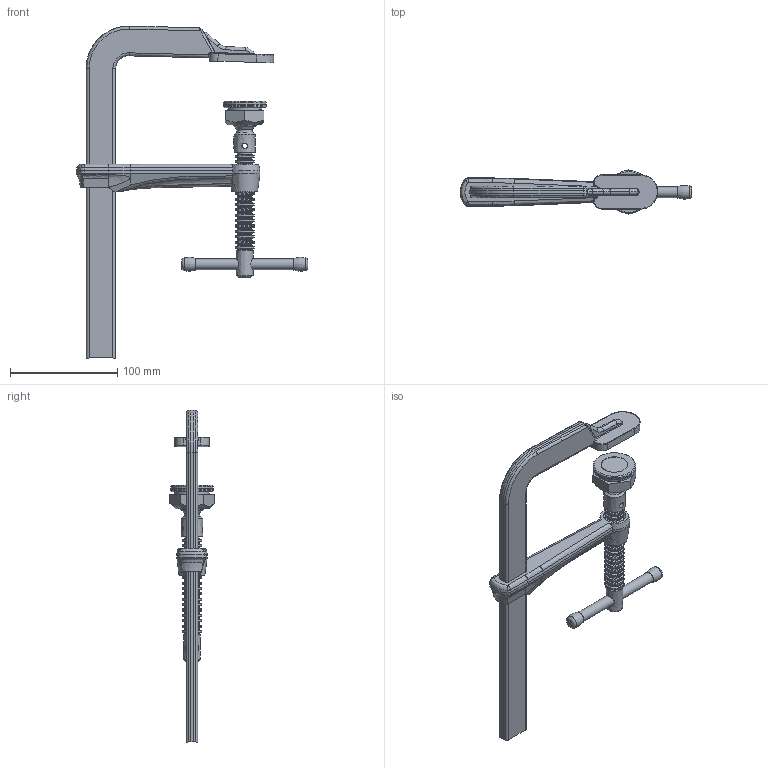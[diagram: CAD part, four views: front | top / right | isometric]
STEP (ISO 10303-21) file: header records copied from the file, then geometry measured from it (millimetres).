
FILE_DESCRIPTION( ('This file contains a STEP AP42 implementation' ,'as created by ZW3D STEP Interface translator.') ,'2;1' );
FILE_NAME( 'SL20_kpl_28x11.stp' ,'20 630. 95610', (''), ('ZWCAD Software Co.'), 'Version 1.0', 'ZW3D to STEP translator', '' );
FILE_SCHEMA(('AUTOMOTIVE_DESIGN'));
Length unit declared in the file: millimetre
Products named in the file (10): 0; GSL20_kpl_28x11; GSL20_Festbügel_28x11; Gleitb_kpl_SL-M; Gleitbuegel_28x11_120mod; Spindel_kpl_SGL-M; Spindel_SGL-M; Druckplatte_kpl_HLZ_2.-Line; 3007071_Bolzen_HLZ; 3008298b
Assembly tree (8 placements, depth 4):
  0
  GSL20_kpl_28x11
    GSL20_Festbügel_28x11
    Gleitb_kpl_SL-M
      Gleitbuegel_28x11_120mod
      Spindel_kpl_SGL-M
        Spindel_SGL-M
      Druckplatte_kpl_HLZ_2.-Line
        3007071_Bolzen_HLZ
        3008298b
Bounding box: 216.39 x 41.57 x 309.88 mm (x, y, z)
Volume: 227447.6 mm3; surface area: 75065.1 mm2
Topology: 6 solids, 16 shells, 426 faces, 1014 edges, 678 vertices
Faces by surface type: bspline 426
Entity records: 46064 total; most frequent: CARTESIAN_POINT 39906, ORIENTED_EDGE 1872, EDGE_CURVE 945, B_SPLINE_CURVE_WITH_KNOTS 558, VERTEX_POINT 538, EDGE_LOOP 445, FACE_OUTER_BOUND 426, ADVANCED_FACE 426
